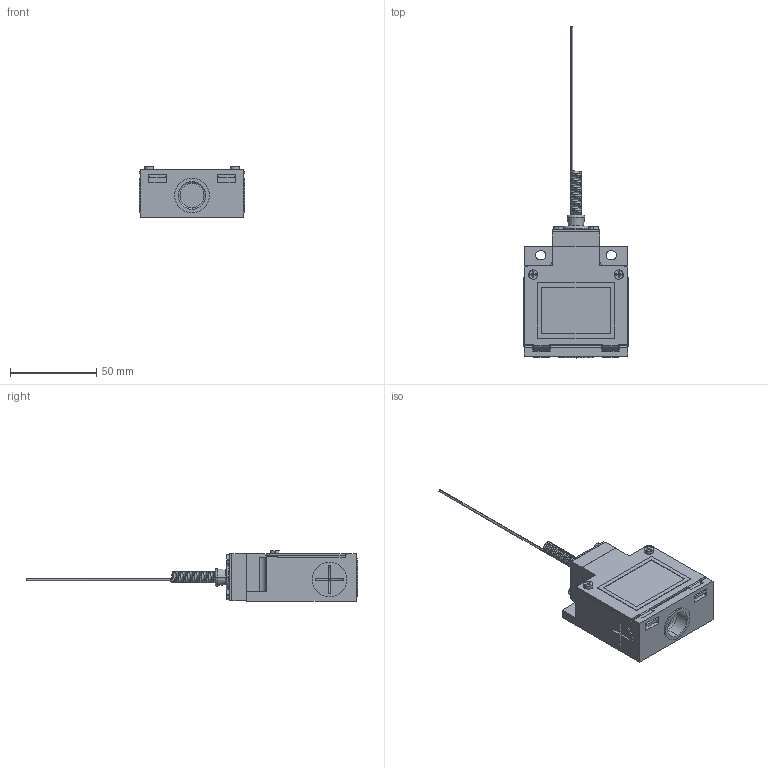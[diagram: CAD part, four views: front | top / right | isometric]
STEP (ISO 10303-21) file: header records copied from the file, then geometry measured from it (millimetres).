
FILE_DESCRIPTION (( 'STEP AP203' ), '1' );
FILE_NAME ('TZE06.STEP', '2018-02-07T13:39:26', ( '' ), ( '' ), 'SwSTEP 2.0', 'SolidWorks 2012', '' );
FILE_SCHEMA (( 'CONFIG_CONTROL_DESIGN' ));
Length unit declared in the file: millimetre
Products named in the file (1): TZE06
Bounding box: 61 x 192.2 x 30 mm (x, y, z)
Volume: 103311.6 mm3; surface area: 20048.5 mm2
Topology: 1 solids, 1 shells, 303 faces, 772 edges, 492 vertices
Faces by surface type: plane 218, cylinder 67, torus 12, cone 4, bspline 2
Entity records: 13967 total; most frequent: CARTESIAN_POINT 6505, ORIENTED_EDGE 1544, DIRECTION 1528, EDGE_CURVE 772, VECTOR 550, LINE 550, VERTEX_POINT 492, AXIS2_PLACEMENT_3D 489
